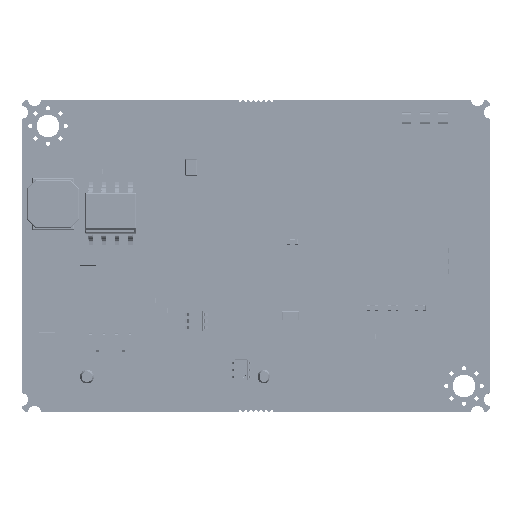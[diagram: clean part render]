
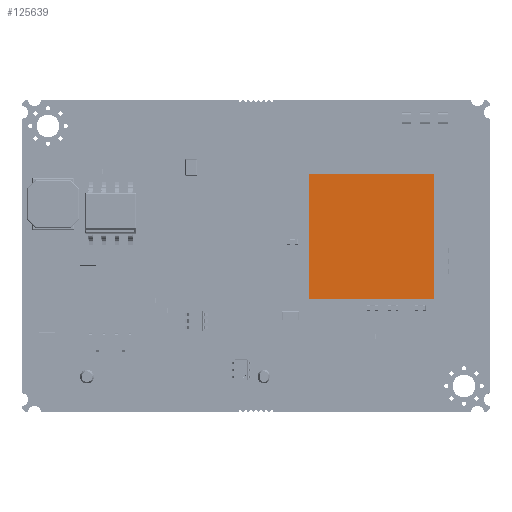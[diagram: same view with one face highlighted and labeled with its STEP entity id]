
A CAD part, top view. The second image highlights one B-rep face of the part: STEP entity #125639.
In plain terms, the highlighted planar face has unit normal (0, 0, 1).
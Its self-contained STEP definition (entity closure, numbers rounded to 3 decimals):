
#125510 = VERTEX_POINT('',#125511);
#125511 = CARTESIAN_POINT('',(-6.,6.,1.05));
#125517 = EDGE_CURVE('',#125510,#125518,#125520,.T.);
#125518 = VERTEX_POINT('',#125519);
#125519 = CARTESIAN_POINT('',(-6.,-6.,1.05));
#125520 = LINE('',#125521,#125522);
#125521 = CARTESIAN_POINT('',(-6.,6.,1.05));
#125522 = VECTOR('',#125523,1.);
#125523 = DIRECTION('',(0.,-1.,0.));
#125548 = EDGE_CURVE('',#125518,#125549,#125551,.T.);
#125549 = VERTEX_POINT('',#125550);
#125550 = CARTESIAN_POINT('',(6.,-6.,1.05));
#125551 = LINE('',#125552,#125553);
#125552 = CARTESIAN_POINT('',(-6.,-6.,1.05));
#125553 = VECTOR('',#125554,1.);
#125554 = DIRECTION('',(1.,0.,0.));
#125579 = EDGE_CURVE('',#125549,#125580,#125582,.T.);
#125580 = VERTEX_POINT('',#125581);
#125581 = CARTESIAN_POINT('',(6.,6.,1.05));
#125582 = LINE('',#125583,#125584);
#125583 = CARTESIAN_POINT('',(6.,-6.,1.05));
#125584 = VECTOR('',#125585,1.);
#125585 = DIRECTION('',(0.,1.,0.));
#125610 = EDGE_CURVE('',#125580,#125510,#125611,.T.);
#125611 = LINE('',#125612,#125613);
#125612 = CARTESIAN_POINT('',(6.,6.,1.05));
#125613 = VECTOR('',#125614,1.);
#125614 = DIRECTION('',(-1.,0.,0.));
#125639 = ADVANCED_FACE('',(#125640),#125646,.T.);
#125640 = FACE_BOUND('',#125641,.T.);
#125641 = EDGE_LOOP('',(#125642,#125643,#125644,#125645));
#125642 = ORIENTED_EDGE('',*,*,#125517,.T.);
#125643 = ORIENTED_EDGE('',*,*,#125548,.T.);
#125644 = ORIENTED_EDGE('',*,*,#125579,.T.);
#125645 = ORIENTED_EDGE('',*,*,#125610,.T.);
#125646 = PLANE('',#125647);
#125647 = AXIS2_PLACEMENT_3D('',#125648,#125649,#125650);
#125648 = CARTESIAN_POINT('',(0.,0.,
    1.05));
#125649 = DIRECTION('',(0.,0.,1.));
#125650 = DIRECTION('',(1.,0.,-0.));
